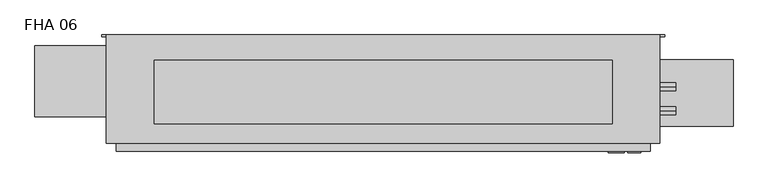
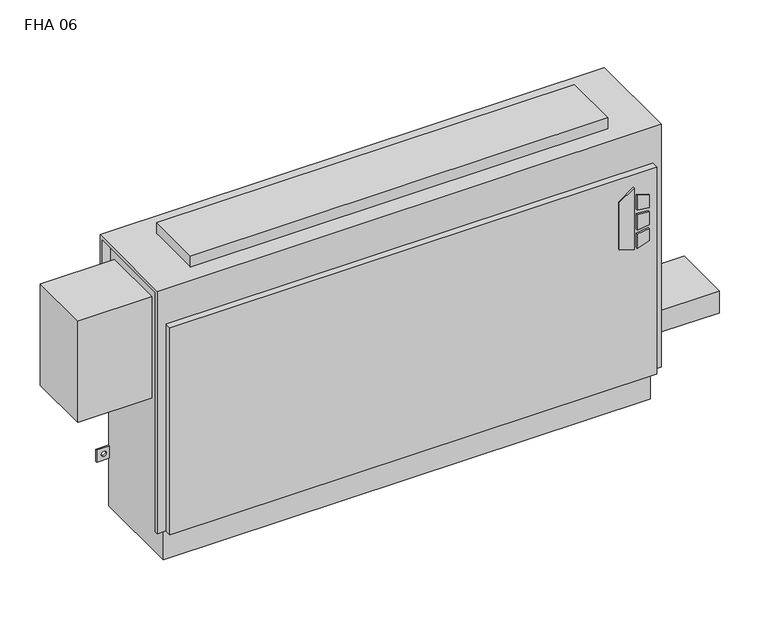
"""IFC4 building model written with IfcOpenShell, lengths in millimetres: proxy geometry, Vertical_Fan_Coil_Unit_-_FHA_-_IEC_-_2-Pipe_TS-FR_RH_2022 : FHA 06."""

from ifc_helpers import new_model, si_unit, point, frame, frame_2d, origin, place, context, project, spatial, polyline, circle_curve, trimmed, segment, composite_curve, outline, extrude, source, transform, mapped, element, save
from ifc_brep_helpers import plane_surface, revolved_surface, advanced_brep


def fha_06_ecc1758d(model_context):
    return source(origin(), model_context, "Body", "SolidModel", [
        extrude(outline(polyline([(391.6086829, 601.7368862), (381.6606126, 633.9102728), (523.831537, 633.9102728), (500.8095309, 601.7368862), (391.6086829, 601.7368862)])), frame((0.0, 9.525, 0.0), z_axis=(0.0, 1.0, 0.0), x_axis=(0.0, 0.0, 1.0)), (0.0, 0.0, 1.0), 3.175),
        extrude(outline(polyline([(470.6079683, 640.6686058), (467.4055757, 666.75), (496.6344168, 666.75), (504.6988318, 640.6686058), (470.6079683, 640.6686058)])), frame((0.0, 9.525, 0.0), z_axis=(0.0, 1.0, 0.0), x_axis=(0.0, 0.0, 1.0)), (0.0, 0.0, 1.0), 3.175),
        extrude(outline(polyline([(418.7444414, 666.75), (415.0789404, 640.6686058), (381.6606126, 640.6686058), (390.2948498, 666.75), (418.7444414, 666.75)])), frame((0.0, 9.525, 0.0), z_axis=(0.0, 1.0, 0.0), x_axis=(0.0, 0.0, 1.0)), (0.0, 0.0, 1.0), 3.175),
        extrude(outline(polyline([(458.0596028, 666.75), (460.3414292, 640.6686058), (424.4038806, 640.6686058), (427.1451456, 666.75), (458.0596028, 666.75)])), frame((0.0, 9.525, 0.0), z_axis=(0.0, 1.0, 0.0), x_axis=(0.0, 0.0, 1.0)), (0.0, 0.0, 1.0), 3.175),
        extrude(outline(composite_curve([segment(trimmed(circle_curve(frame_2d((749.3, 128.5875)), 9.525), [point((739.775, 128.5875))], [point((758.825, 128.5875))], False, "CARTESIAN"), True, "CONTINUOUS"), segment(trimmed(circle_curve(frame_2d((749.3, 128.5875)), 9.525), [point((758.825, 128.5875))], [point((739.775, 128.5875))], False, "CARTESIAN"), True, "CONTINUOUS")], self_intersect=False)), frame((0.0, 0.0, 101.6), z_axis=(0.0, 0.0, 1.0), x_axis=(1.0, 0.0, 0.0)), (0.0, 0.0, 1.0), 25.4),
        extrude(outline(polyline([(850.9, 195.2625), (850.9, 61.9125), (685.8, 61.9125), (685.8, 195.2625), (850.9, 195.2625)])), frame((0.0, 0.0, 127.0), z_axis=(0.0, 0.0, 1.0), x_axis=(1.0, 0.0, 0.0)), (0.0, 0.0, 1.0), 50.8),
        extrude(outline(polyline([(609.6, 193.675), (609.6, 66.675), (-304.8, 66.675), (-304.8, 193.675), (609.6, 193.675)])), frame((0.0, 0.0, 635.0), z_axis=(0.0, 0.0, 1.0), x_axis=(1.0, 0.0, 0.0)), (0.0, 0.0, 1.0), 25.4),
        extrude(outline(composite_curve([segment(trimmed(circle_curve(frame_2d((93.1926, 488.0102)), 7.9375), [point((93.1926, 480.0727))], [point((93.1926, 495.9477))], False, "CARTESIAN"), True, "CONTINUOUS"), segment(trimmed(circle_curve(frame_2d((93.1926, 488.0102)), 7.9375), [point((93.1926, 495.9477))], [point((93.1926, 480.0727))], False, "CARTESIAN"), True, "CONTINUOUS")], self_intersect=False)), frame((685.8, 0.0, 0.0), z_axis=(1.0, 0.0, 0.0), x_axis=(0.0, 1.0, 0.0)), (0.0, 0.0, 1.0), 50.8),
        extrude(outline(composite_curve([segment(trimmed(circle_curve(frame_2d((141.3002, 461.3402)), 7.9375), [point((141.3002, 453.4027))], [point((141.3002, 469.2777))], False, "CARTESIAN"), True, "CONTINUOUS"), segment(trimmed(circle_curve(frame_2d((141.3002, 461.3402)), 7.9375), [point((141.3002, 469.2777))], [point((141.3002, 453.4027))], False, "CARTESIAN"), True, "CONTINUOUS")], self_intersect=False)), frame((685.8, 0.0, 0.0), z_axis=(1.0, 0.0, 0.0), x_axis=(0.0, 1.0, 0.0)), (0.0, 0.0, 1.0), 50.8),
        extrude(outline(polyline([(-542.925, 223.266), (-381.0, 223.266), (-381.0, 81.534), (-542.925, 81.534), (-542.925, 223.266)])), frame((0.0, 0.0, 349.25), z_axis=(0.0, 0.0, 1.0), x_axis=(1.0, 0.0, 0.0)), (0.0, 0.0, 1.0), 234.95),
        advanced_brep(
        [(704.85, 244.475, 635.0), (-400.05, 244.475, 635.0), (-400.05, 28.575, 635.0), (704.85, 28.575, 635.0), (-381.0, 244.475, 0.0), (685.8, 244.475, 0.0), (685.8, 38.1, 0.0), (-381.0, 38.1, 0.0), (704.85, 244.475, 558.8), (685.8, 244.475, 558.8), (685.8, 244.475, 414.3375), (714.375, 244.475, 414.3375), (714.375, 244.475, 385.7625), (685.8, 244.475, 385.7625), (685.8, 244.475, 287.3375), (714.375, 244.475, 287.3375), (714.375, 244.475, 258.7625), (685.8, 244.475, 258.7625), (685.8, 244.475, 141.2875), (714.375, 244.475, 141.2875), (714.375, 244.475, 112.7125), (685.8, 244.475, 112.7125), (-381.0, 244.475, 112.7125), (-409.575, 244.475, 112.7125), (-409.575, 244.475, 141.2875), (-381.0, 244.475, 141.2875), (-381.0, 244.475, 258.7625), (-409.575, 244.475, 258.7625), (-409.575, 244.475, 287.3375), (-381.0, 244.475, 287.3375), (-381.0, 244.475, 385.7625), (-409.575, 244.475, 385.7625), (-409.575, 244.475, 414.3375), (-381.0, 244.475, 414.3375), (-381.0, 244.475, 558.8), (-400.05, 244.475, 558.8), (704.0626, 244.475, 127.0), (692.9374, 244.475, 127.0), (-388.1374, 244.475, 127.0), (-399.2626, 244.475, 127.0), (704.0626, 244.475, 273.05), (692.9374, 244.475, 273.05), (-388.1374, 244.475, 273.05), (-399.2626, 244.475, 273.05), (704.0626, 244.475, 400.05), (692.9374, 244.475, 400.05), (-388.1374, 244.475, 400.05), (-399.2626, 244.475, 400.05), (-400.05, 238.125, 558.8), (-400.05, 238.125, 628.65), (-400.05, 34.925, 628.65), (-400.05, 34.925, 73.025), (-400.05, 28.575, 73.025), (685.8, 12.7, 552.45), (-381.0, 12.7, 552.45), (-381.0, 12.7, 73.025), (685.8, 12.7, 73.025), (704.85, 28.575, 73.025), (704.85, 34.925, 73.025), (704.85, 34.925, 628.65), (704.85, 238.125, 628.65), (704.85, 238.125, 558.8), (-381.0, 28.575, 73.025), (-381.0, 28.575, 552.45), (685.8, 28.575, 552.45), (685.8, 28.575, 73.025), (-381.0, 34.925, 73.025), (-381.0, 38.1, 73.025), (685.8, 38.1, 73.025), (685.8, 34.925, 73.025), (685.8, 241.3, 112.7125), (685.8, 241.3, 141.2875), (685.8, 241.3, 258.7625), (685.8, 241.3, 287.3375), (685.8, 241.3, 385.7625), (685.8, 241.3, 414.3375), (685.8, 238.125, 558.8), (685.8, 238.125, 628.65), (685.8, 34.925, 628.65), (-381.0, 34.925, 628.65), (-381.0, 238.125, 628.65), (-381.0, 238.125, 558.8), (-381.0, 241.3, 414.3375), (-381.0, 241.3, 385.7625), (-381.0, 241.3, 287.3375), (-381.0, 241.3, 258.7625), (-381.0, 241.3, 141.2875), (-381.0, 241.3, 112.7125), (714.375, 241.3, 112.7125), (714.375, 241.3, 141.2875), (692.9374, 241.3, 127.0), (704.0626, 241.3, 127.0), (714.375, 241.3, 258.7625), (714.375, 241.3, 287.3375), (692.9374, 241.3, 273.05), (704.0626, 241.3, 273.05), (714.375, 241.3, 385.7625), (714.375, 241.3, 414.3375), (692.9374, 241.3, 400.05), (704.0626, 241.3, 400.05), (-409.575, 241.3, 141.2875), (-409.575, 241.3, 112.7125), (-399.2626, 241.3, 127.0), (-388.1374, 241.3, 127.0), (-409.575, 241.3, 287.3375), (-409.575, 241.3, 258.7625), (-399.2626, 241.3, 273.05), (-388.1374, 241.3, 273.05), (-409.575, 241.3, 414.3375), (-409.575, 241.3, 385.7625), (-399.2626, 241.3, 400.05), (-388.1374, 241.3, 400.05)],
        [
            (0, 1),
            (1, 2),
            (2, 3),
            (3, 0),
            (4, 5),
            (5, 6),
            (6, 7),
            (7, 4),
            (0, 8),
            (8, 9),
            (9, 10),
            (10, 11),
            (11, 12),
            (12, 13),
            (13, 14),
            (14, 15),
            (15, 16),
            (16, 17),
            (17, 18),
            (18, 19),
            (19, 20),
            (20, 21),
            (21, 5),
            (4, 22),
            (22, 23),
            (23, 24),
            (24, 25),
            (25, 26),
            (26, 27),
            (27, 28),
            (28, 29),
            (29, 30),
            (30, 31),
            (31, 32),
            (32, 33),
            (33, 34),
            (34, 35),
            (35, 1),
            (36, 37, circle_curve(frame((698.5, 244.475, 127.0), z_axis=(0.0, -1.0, 0.0), x_axis=(-1.0, 0.0, 0.0)), 5.5626)),
            (37, 36, circle_curve(frame((698.5, 244.475, 127.0), z_axis=(0.0, -1.0, 0.0), x_axis=(-1.0, 0.0, 0.0)), 5.5626)),
            (38, 39, circle_curve(frame((-393.7, 244.475, 127.0), z_axis=(0.0, -1.0, 0.0), x_axis=(-1.0, 0.0, 0.0)), 5.5626)),
            (39, 38, circle_curve(frame((-393.7, 244.475, 127.0), z_axis=(0.0, -1.0, 0.0), x_axis=(-1.0, 0.0, 0.0)), 5.5626)),
            (40, 41, circle_curve(frame((698.5, 244.475, 273.05), z_axis=(0.0, -1.0, 0.0), x_axis=(-1.0, 0.0, 0.0)), 5.5626)),
            (41, 40, circle_curve(frame((698.5, 244.475, 273.05), z_axis=(0.0, -1.0, 0.0), x_axis=(-1.0, 0.0, 0.0)), 5.5626)),
            (42, 43, circle_curve(frame((-393.7, 244.475, 273.05), z_axis=(0.0, -1.0, 0.0), x_axis=(-1.0, 0.0, 0.0)), 5.5626)),
            (43, 42, circle_curve(frame((-393.7, 244.475, 273.05), z_axis=(0.0, -1.0, 0.0), x_axis=(-1.0, 0.0, 0.0)), 5.5626)),
            (44, 45, circle_curve(frame((698.5, 244.475, 400.05), z_axis=(0.0, -1.0, 0.0), x_axis=(-1.0, 0.0, 0.0)), 5.5626)),
            (45, 44, circle_curve(frame((698.5, 244.475, 400.05), z_axis=(0.0, -1.0, 0.0), x_axis=(-1.0, 0.0, 0.0)), 5.5626)),
            (46, 47, circle_curve(frame((-393.7, 244.475, 400.05), z_axis=(0.0, -1.0, 0.0), x_axis=(-1.0, 0.0, 0.0)), 5.5626)),
            (47, 46, circle_curve(frame((-393.7, 244.475, 400.05), z_axis=(0.0, -1.0, 0.0), x_axis=(-1.0, 0.0, 0.0)), 5.5626)),
            (35, 48),
            (48, 49),
            (49, 50),
            (50, 51),
            (51, 52),
            (52, 2),
            (53, 54),
            (54, 55),
            (55, 56),
            (56, 53),
            (3, 57),
            (57, 58),
            (58, 59),
            (59, 60),
            (60, 61),
            (61, 8),
            (52, 62),
            (62, 63),
            (63, 64),
            (64, 65),
            (65, 57),
            (53, 64),
            (63, 54),
            (55, 62),
            (51, 66),
            (66, 67),
            (67, 68),
            (68, 69),
            (69, 58),
            (65, 56),
            (6, 68),
            (67, 7),
            (21, 70),
            (70, 71),
            (71, 18),
            (17, 72),
            (72, 73),
            (73, 14),
            (13, 74),
            (74, 75),
            (75, 10),
            (9, 76),
            (76, 77),
            (77, 78),
            (78, 69),
            (66, 79),
            (79, 80),
            (80, 81),
            (81, 34),
            (33, 82),
            (82, 83),
            (83, 30),
            (29, 84),
            (84, 85),
            (85, 26),
            (25, 86),
            (86, 87),
            (87, 22),
            (76, 61),
            (60, 77),
            (78, 59),
            (50, 79),
            (81, 48),
            (80, 49),
            (70, 88),
            (88, 89),
            (89, 71),
            (90, 91, circle_curve(frame((698.5, 241.3, 127.0), z_axis=(0.0, 1.0, 0.0), x_axis=(-1.0, 0.0, 0.0)), 5.5626)),
            (91, 90, circle_curve(frame((698.5, 241.3, 127.0), z_axis=(0.0, 1.0, 0.0), x_axis=(-1.0, 0.0, 0.0)), 5.5626)),
            (92, 93),
            (93, 73),
            (72, 92),
            (94, 95, circle_curve(frame((698.5, 241.3, 273.05), z_axis=(0.0, 1.0, 0.0), x_axis=(-1.0, 0.0, 0.0)), 5.5626)),
            (95, 94, circle_curve(frame((698.5, 241.3, 273.05), z_axis=(0.0, 1.0, 0.0), x_axis=(-1.0, 0.0, 0.0)), 5.5626)),
            (96, 97),
            (97, 75),
            (74, 96),
            (98, 99, circle_curve(frame((698.5, 241.3, 400.05), z_axis=(0.0, 1.0, 0.0), x_axis=(-1.0, 0.0, 0.0)), 5.5626)),
            (99, 98, circle_curve(frame((698.5, 241.3, 400.05), z_axis=(0.0, 1.0, 0.0), x_axis=(-1.0, 0.0, 0.0)), 5.5626)),
            (100, 101),
            (101, 87),
            (86, 100),
            (102, 103, circle_curve(frame((-393.7, 241.3, 127.0), z_axis=(0.0, 1.0, 0.0), x_axis=(-1.0, 0.0, 0.0)), 5.5626)),
            (103, 102, circle_curve(frame((-393.7, 241.3, 127.0), z_axis=(0.0, 1.0, 0.0), x_axis=(-1.0, 0.0, 0.0)), 5.5626)),
            (84, 104),
            (104, 105),
            (105, 85),
            (106, 107, circle_curve(frame((-393.7, 241.3, 273.05), z_axis=(0.0, 1.0, 0.0), x_axis=(-1.0, 0.0, 0.0)), 5.5626)),
            (107, 106, circle_curve(frame((-393.7, 241.3, 273.05), z_axis=(0.0, 1.0, 0.0), x_axis=(-1.0, 0.0, 0.0)), 5.5626)),
            (108, 109),
            (109, 83),
            (82, 108),
            (110, 111, circle_curve(frame((-393.7, 241.3, 400.05), z_axis=(0.0, 1.0, 0.0), x_axis=(-1.0, 0.0, 0.0)), 5.5626)),
            (111, 110, circle_curve(frame((-393.7, 241.3, 400.05), z_axis=(0.0, 1.0, 0.0), x_axis=(-1.0, 0.0, 0.0)), 5.5626)),
            (89, 19),
            (88, 20),
            (16, 92),
            (93, 15),
            (12, 96),
            (97, 11),
            (24, 100),
            (101, 23),
            (105, 27),
            (104, 28),
            (32, 108),
            (109, 31),
            (90, 37),
            (36, 91),
            (102, 39),
            (38, 103),
            (94, 41),
            (40, 95),
            (106, 43),
            (42, 107),
            (98, 45),
            (44, 99),
            (110, 47),
            (46, 111),
        ],
        [
            plane_surface(frame((-400.05, 244.475, 635.0), z_axis=(0.0, 0.0, 1.0), x_axis=(-1.0, 0.0, 0.0))),
            plane_surface(frame((-400.05, 244.475, 0.0), z_axis=(0.0, 0.0, -1.0), x_axis=(1.0, 0.0, 0.0))),
            plane_surface(frame((704.85, 244.475, 635.0), z_axis=(0.0, 1.0, 0.0), x_axis=(0.0, 0.0, -1.0))),
            plane_surface(frame((-400.05, 244.475, 635.0), z_axis=(-1.0, 0.0, 0.0), x_axis=(0.0, 0.0, -1.0))),
            plane_surface(frame((-400.05, 12.7, 635.0), z_axis=(0.0, -1.0, 0.0), x_axis=(0.0, 0.0, -1.0))),
            plane_surface(frame((704.85, 12.7, 635.0), z_axis=(1.0, 0.0, 0.0), x_axis=(0.0, 0.0, -1.0))),
            plane_surface(frame((-654.05, 28.575, 635.0), z_axis=(0.0, -1.0, 0.0), x_axis=(1.0, 0.0, 0.0))),
            plane_surface(frame((-654.05, 28.575, 552.45), z_axis=(0.0, 0.0, 1.0), x_axis=(1.0, 0.0, 0.0))),
            plane_surface(frame((-400.05, 12.7, 73.025), z_axis=(0.0, 0.0, -1.0), x_axis=(1.0, 0.0, 0.0))),
            plane_surface(frame((-400.05, 38.1, 73.025), z_axis=(0.0, -1.0, 0.0), x_axis=(1.0, 0.0, 0.0))),
            plane_surface(frame((685.8, 28.575, 73.025), z_axis=(1.0, 0.0, 0.0), x_axis=(0.0, -1.0, 0.0))),
            plane_surface(frame((-381.0, 28.575, 552.45), z_axis=(-1.0, 0.0, 0.0), x_axis=(0.0, -1.0, 0.0))),
            plane_surface(frame((685.8, 244.475, 0.0), z_axis=(1.0, 0.0, 0.0), x_axis=(0.0, -1.0, 0.0))),
            plane_surface(frame((-381.0, 244.475, 73.025), z_axis=(-1.0, 0.0, 0.0), x_axis=(0.0, -1.0, 0.0))),
            plane_surface(frame((685.8, 238.125, 628.65), z_axis=(0.0, -1.0, 0.0), x_axis=(1.0, 0.0, 0.0))),
            plane_surface(frame((685.8, 238.125, 558.8), z_axis=(0.0, 0.0, -1.0), x_axis=(1.0, 0.0, 0.0))),
            plane_surface(frame((685.8, 34.925, 73.025), z_axis=(0.0, 1.0, 0.0), x_axis=(1.0, 0.0, 0.0))),
            plane_surface(frame((685.8, 34.925, 628.65), z_axis=(0.0, 0.0, -1.0), x_axis=(1.0, 0.0, 0.0))),
            plane_surface(frame((-381.0, 34.925, 628.65), z_axis=(0.0, 1.0, 0.0), x_axis=(-1.0, 0.0, 0.0))),
            plane_surface(frame((-381.0, 244.475, 558.8), z_axis=(0.0, 0.0, -1.0), x_axis=(-1.0, 0.0, 0.0))),
            plane_surface(frame((-381.0, 238.125, 558.8), z_axis=(0.0, -1.0, 0.0), x_axis=(-1.0, 0.0, 0.0))),
            plane_surface(frame((-381.0, 238.125, 628.65), z_axis=(0.0, 0.0, -1.0), x_axis=(-1.0, 0.0, 0.0))),
            plane_surface(frame((714.375, 241.3, 141.2875), z_axis=(0.0, -1.0, 0.0), x_axis=(-1.0, 0.0, 0.0))),
            plane_surface(frame((685.8, 244.475, 141.2875), z_axis=(0.0, 0.0, 1.0), x_axis=(0.0, -1.0, 0.0))),
            plane_surface(frame((714.375, 244.475, 141.2875), z_axis=(1.0, 0.0, 0.0), x_axis=(0.0, -1.0, 0.0))),
            plane_surface(frame((714.375, 244.475, 112.7125), z_axis=(0.0, 0.0, -1.0), x_axis=(0.0, -1.0, 0.0))),
            plane_surface(frame((714.375, 244.475, 258.7625), z_axis=(0.0, 0.0, -1.0), x_axis=(0.0, -1.0, 0.0))),
            plane_surface(frame((685.8, 244.475, 287.3375), z_axis=(0.0, 0.0, 1.0), x_axis=(0.0, -1.0, 0.0))),
            plane_surface(frame((714.375, 244.475, 287.3375), z_axis=(1.0, 0.0, 0.0), x_axis=(0.0, -1.0, 0.0))),
            plane_surface(frame((714.375, 244.475, 385.7625), z_axis=(0.0, 0.0, -1.0), x_axis=(0.0, -1.0, 0.0))),
            plane_surface(frame((685.8, 244.475, 414.3375), z_axis=(0.0, 0.0, 1.0), x_axis=(0.0, -1.0, 0.0))),
            plane_surface(frame((714.375, 244.475, 414.3375), z_axis=(1.0, 0.0, 0.0), x_axis=(0.0, -1.0, 0.0))),
            plane_surface(frame((-409.575, 244.475, 141.2875), z_axis=(0.0, 0.0, 1.0), x_axis=(0.0, -1.0, 0.0))),
            plane_surface(frame((-381.0, 244.475, 112.7125), z_axis=(0.0, 0.0, -1.0), x_axis=(0.0, -1.0, 0.0))),
            plane_surface(frame((-409.575, 244.475, 112.7125), z_axis=(-1.0, 0.0, 0.0), x_axis=(0.0, -1.0, 0.0))),
            plane_surface(frame((-381.0, 244.475, 258.7625), z_axis=(0.0, 0.0, -1.0), x_axis=(0.0, -1.0, 0.0))),
            plane_surface(frame((-409.575, 244.475, 258.7625), z_axis=(-1.0, 0.0, 0.0), x_axis=(0.0, -1.0, 0.0))),
            plane_surface(frame((-409.575, 244.475, 287.3375), z_axis=(0.0, 0.0, 1.0), x_axis=(0.0, -1.0, 0.0))),
            plane_surface(frame((-409.575, 244.475, 414.3375), z_axis=(0.0, 0.0, 1.0), x_axis=(0.0, -1.0, 0.0))),
            plane_surface(frame((-381.0, 244.475, 385.7625), z_axis=(0.0, 0.0, -1.0), x_axis=(0.0, -1.0, 0.0))),
            plane_surface(frame((-409.575, 244.475, 385.7625), z_axis=(-1.0, 0.0, 0.0), x_axis=(0.0, -1.0, 0.0))),
            revolved_surface(polyline([(692.9374, 241.3, 127.0), (692.9374, 244.475, 127.0)]), (698.5, 244.475, 127.0), (0.0, -1.0, 0.0)),
            revolved_surface(polyline([(-399.26259999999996, 241.3, 127.0), (-399.26259999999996, 244.475, 127.0)]), (-393.7, 244.475, 127.0), (0.0, -1.0, 0.0)),
            revolved_surface(polyline([(692.9374, 241.3, 273.05), (692.9374, 244.475, 273.05)]), (698.5, 244.475, 273.05), (0.0, -1.0, 0.0)),
            revolved_surface(polyline([(-399.26259999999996, 241.3, 273.05), (-399.26259999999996, 244.475, 273.05)]), (-393.7, 244.475, 273.05), (0.0, -1.0, 0.0)),
            revolved_surface(polyline([(692.9374, 241.3, 400.05), (692.9374, 244.475, 400.05)]), (698.5, 244.475, 400.05), (0.0, -1.0, 0.0)),
            revolved_surface(polyline([(-399.26259999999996, 241.3, 400.05), (-399.26259999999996, 244.475, 400.05)]), (-393.7, 244.475, 400.05), (0.0, -1.0, 0.0)),
        ],
        [
            (0, [[1, 2, 3, 4]]),
            (1, [[5, 6, 7, 8]]),
            (2, [[-1, 9, 10, 11, 12, 13, 14, 15, 16, 17, 18, 19, 20, 21, 22, 23, -5, 24, 25, 26, 27, 28, 29, 30, 31, 32, 33, 34, 35, 36, 37, 38], [39, 40], [41, 42], [43, 44], [45, 46], [47, 48], [49, 50]]),
            (3, [[-2, -38, 51, 52, 53, 54, 55, 56]]),
            (4, [[57, 58, 59, 60]]),
            (5, [[-4, 61, 62, 63, 64, 65, 66, -9]]),
            (6, [[-3, -56, 67, 68, 69, 70, 71, -61]]),
            (7, [[-57, 72, -69, 73]]),
            (8, [[-59, 74, -67, -55, 75, 76, 77, 78, 79, -62, -71, 80]]),
            (9, [[-7, 81, -77, 82]]),
            (10, [[-70, -72, -60, -80]]),
            (11, [[-68, -74, -58, -73]]),
            (12, [[-6, -23, 83, 84, 85, -19, 86, 87, 88, -15, 89, 90, 91, -11, 92, 93, 94, 95, -78, -81]]),
            (13, [[-8, -82, -76, 96, 97, 98, 99, -36, 100, 101, 102, -32, 103, 104, 105, -28, 106, 107, 108, -24]]),
            (14, [[-93, 109, -65, 110]]),
            (15, [[-92, -10, -66, -109]]),
            (16, [[-95, 111, -63, -79]]),
            (17, [[-94, -110, -64, -111]]),
            (18, [[-96, -75, -54, 112]]),
            (19, [[-99, 113, -51, -37]]),
            (20, [[-98, 114, -52, -113]]),
            (21, [[-97, -112, -53, -114]]),
            (22, [[115, 116, 117, -84], [118, 119]]),
            (22, [[120, 121, -87, 122], [123, 124]]),
            (22, [[125, 126, -90, 127], [128, 129]]),
            (22, [[130, 131, -107, 132], [133, 134]]),
            (22, [[135, 136, 137, -104], [138, 139]]),
            (22, [[140, 141, -101, 142], [143, 144]]),
            (23, [[-117, 145, -20, -85]]),
            (24, [[-116, 146, -21, -145]]),
            (25, [[-115, -83, -22, -146]]),
            (26, [[-122, -86, -18, 147]]),
            (27, [[-121, 148, -16, -88]]),
            (28, [[-120, -147, -17, -148]]),
            (29, [[-127, -89, -14, 149]]),
            (30, [[-126, 150, -12, -91]]),
            (31, [[-125, -149, -13, -150]]),
            (32, [[-132, -106, -27, 151]]),
            (33, [[-131, 152, -25, -108]]),
            (34, [[-130, -151, -26, -152]]),
            (35, [[-137, 153, -29, -105]]),
            (36, [[-136, 154, -30, -153]]),
            (37, [[-135, -103, -31, -154]]),
            (38, [[-142, -100, -35, 155]]),
            (39, [[-141, 156, -33, -102]]),
            (40, [[-140, -155, -34, -156]]),
            (41, [[157, -39, 158, -118]]),
            (41, [[-157, -119, -158, -40]]),
            (42, [[159, -41, 160, -133]]),
            (42, [[-159, -134, -160, -42]]),
            (43, [[161, -43, 162, -123]]),
            (43, [[-161, -124, -162, -44]]),
            (44, [[163, -45, 164, -138]]),
            (44, [[-163, -139, -164, -46]]),
            (45, [[165, -47, 166, -128]]),
            (45, [[-165, -129, -166, -48]]),
            (46, [[167, -49, 168, -143]]),
            (46, [[-167, -144, -168, -50]]),
        ],
    ),
    ])


if __name__ == "__main__":
    model = new_model("IFC4")
    model_context = context("Model", 3, world=origin())
    ifc_project = project(units=[si_unit("LENGTHUNIT", "METRE", prefix="MILLI")], contexts=[model_context])
    site = spatial("IfcSite", under=ifc_project)
    building = spatial("IfcBuilding", under=site)
    placement = place(None, origin())
    fha_06_shape = fha_06_ecc1758d(model_context)
    element("IfcBuildingElementProxy", 1, Name="Vertical_Fan_Coil_Unit_-_FHA_-_IEC_-_2-Pipe_TS-FR_RH_2022 : FHA 06", ObjectType="Vertical_Fan_Coil_Unit_-_FHA_-_IEC_-_2-Pipe_TS-FR_RH_2022 : FHA 06", at=placement, inside=building, context=model_context, shape_type="MappedRepresentation", body=[
        mapped(fha_06_shape, transform((0.0, 0.0, 0.0), x_axis=(1.0, 0.0, 0.0), y_axis=(0.0, 1.0, 0.0), z_axis=(0.0, 0.0, 1.0))),
    ])
    save(model, "model.ifc")
